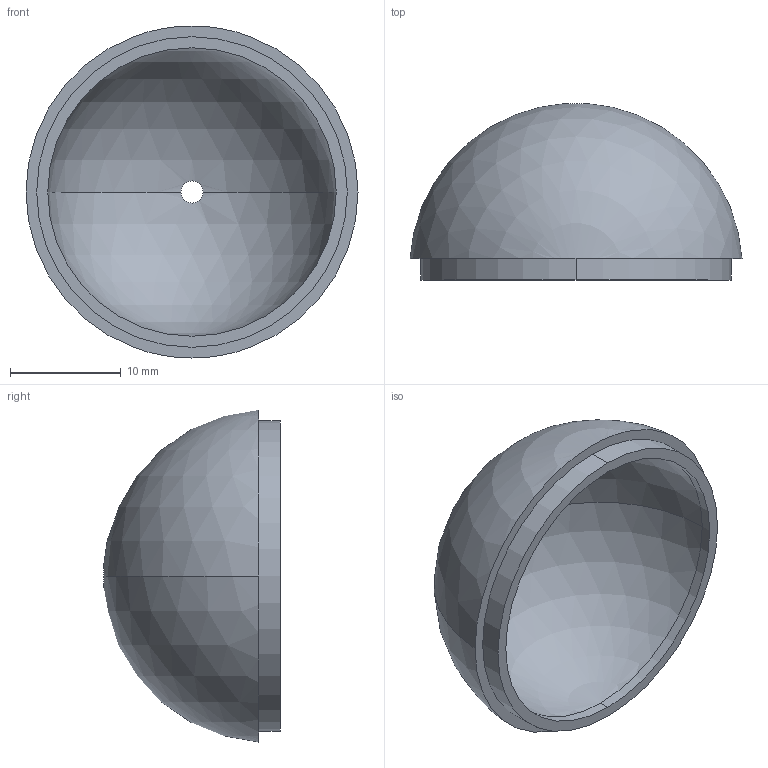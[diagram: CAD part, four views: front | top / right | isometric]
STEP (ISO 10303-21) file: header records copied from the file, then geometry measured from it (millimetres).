
FILE_DESCRIPTION (( 'STEP AP214' ), '1' );
FILE_NAME ('C5.STEP', '2016-02-27T11:56:47', ( '' ), ( '' ), 'SwSTEP 2.0', 'SolidWorks 2012', '' );
FILE_SCHEMA (( 'AUTOMOTIVE_DESIGN' ));
Length unit declared in the file: millimetre
Products named in the file (1): C5
Bounding box: 29.93 x 15.92 x 29.93 mm (x, y, z)
Volume: 2450.3 mm3; surface area: 2809.3 mm2
Topology: 1 solids, 1 shells, 12 faces, 32 edges, 20 vertices
Faces by surface type: cylinder 6, sphere 4, plane 2
Entity records: 416 total; most frequent: DIRECTION 80, CARTESIAN_POINT 63, ORIENTED_EDGE 60, AXIS2_PLACEMENT_3D 37, EDGE_CURVE 30, CIRCLE 24, VERTEX_POINT 20, EDGE_LOOP 14
